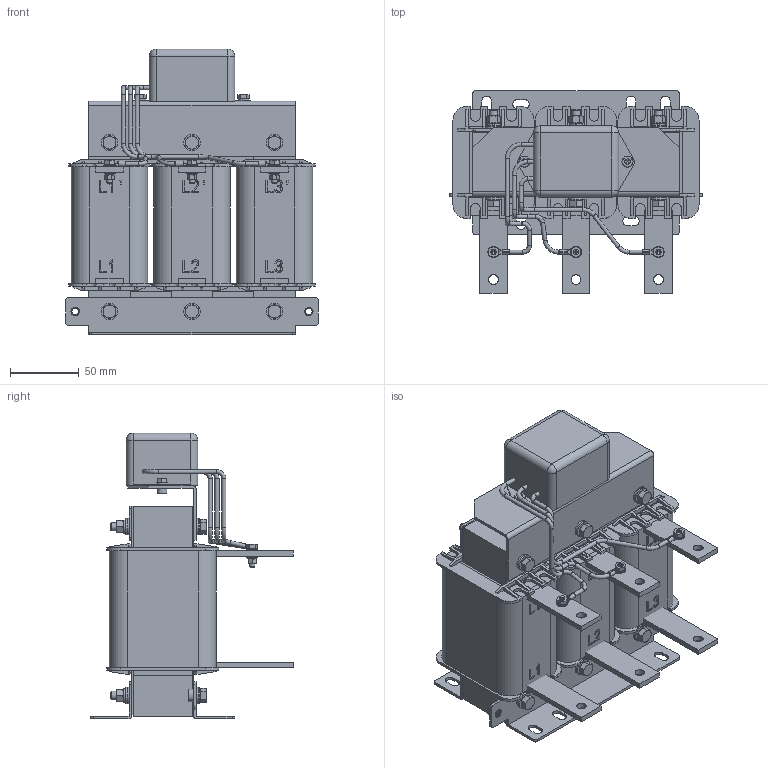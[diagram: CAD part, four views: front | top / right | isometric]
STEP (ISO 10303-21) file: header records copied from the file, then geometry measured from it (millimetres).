
FILE_DESCRIPTION(('STEP AP203'), '1');
FILE_NAME('IDUDT-22_60-4 _ dU_dt ôèëüòð 22 êÂò', '', ('UNSPECIFIED'), ('UNSPECIFIED'), 'C3D Converter', 'C3D Toolkit', '');
FILE_SCHEMA(('CONFIG_CONTROL_DESIGN'));
Length unit declared in the file: millimetre
Products named in the file (7): IDUDT-22/60-4
Assembly tree (11 placements, depth 2):
  IDUDT-22/60-4
    (unnamed)
    (unnamed)  x6
    (unnamed)
    (unnamed)
    (unnamed)
    (unnamed)
Bounding box: 184 x 147.65 x 207.8 mm (x, y, z)
Volume: 1753697 mm3; surface area: 544113.1 mm2
Topology: 114 solids, 114 shells, 1774 faces, 4373 edges, 2863 vertices
Faces by surface type: plane 1244, cylinder 350, cone 104, bspline 57, torus 15, sphere 4
Full cylindrical faces by diameter (mm): 3 x23, 3.369 x3, 4 x3, 4.3 x3, 4.302 x3, 4.333 x8, 5 x5, 5.053 x6, 6 x6, 6.367 x3, 6.45 x6, 6.5 x24, 7 x8, 8 x8, 9 x14, 9.55 x6, 12 x24
Entity records: 73854 total; most frequent: CARTESIAN_POINT 25793, ORIENTED_EDGE 7294, DIRECTION 6782, EDGE_CURVE 3647, LINE 2690, VECTOR 2690, VERTEX_POINT 2492, AXIS2_PLACEMENT_3D 2046
